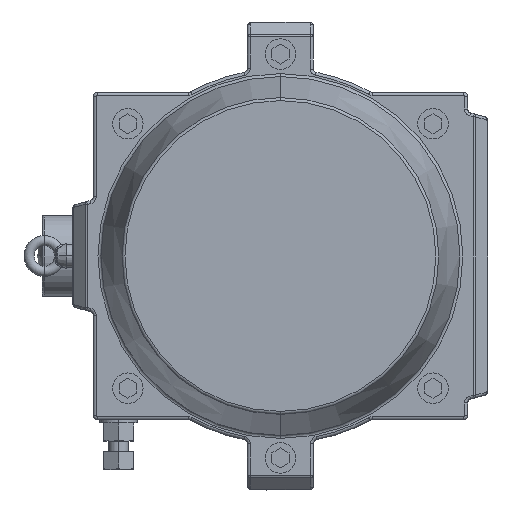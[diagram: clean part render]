
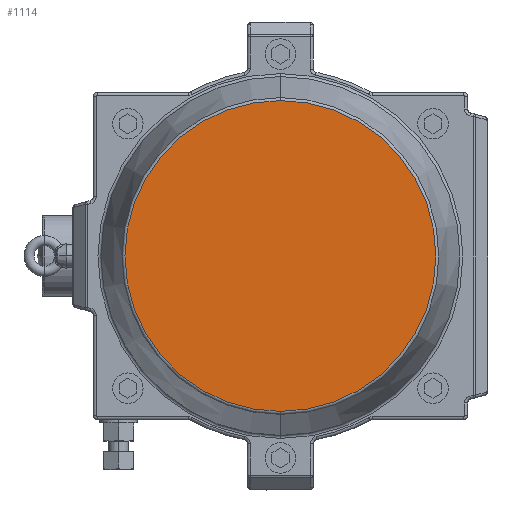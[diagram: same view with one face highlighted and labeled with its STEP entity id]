
A CAD part, left-side view. The second image highlights one B-rep face of the part: STEP entity #1114.
In plain terms, the highlighted planar face has unit normal (-1, 0, 0).
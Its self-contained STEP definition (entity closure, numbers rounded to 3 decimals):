
#560 = DIRECTION ( 'NONE',  ( -1., 0., 0. ) ) ;
#570 = DIRECTION ( 'NONE',  ( -1., 0., 0. ) ) ;
#1114 = ADVANCED_FACE ( 'NONE', ( #4717 ), #16766, .T. ) ;
#4717 = FACE_OUTER_BOUND ( 'NONE', #15840, .T. ) ;
#6151 = ORIENTED_EDGE ( 'NONE', *, *, #16792, .T. ) ;
#7449 = DIRECTION ( 'NONE',  ( 0., 0., 1. ) ) ;
#7856 = DIRECTION ( 'NONE',  ( 0., 0., 1. ) ) ;
#8465 = CIRCLE ( 'NONE', #13365, 152.777 ) ;
#8850 = VERTEX_POINT ( 'NONE', #9431 ) ;
#9431 = CARTESIAN_POINT ( 'NONE',  ( -454.5, 0., 152.777 ) ) ;
#9592 = CARTESIAN_POINT ( 'NONE',  ( -454.5, 0., 0. ) ) ;
#11214 = DIRECTION ( 'NONE',  ( 0., 0., 1. ) ) ;
#12070 = AXIS2_PLACEMENT_3D ( 'NONE', #18757, #570, #7856 ) ;
#12660 = ORIENTED_EDGE ( 'NONE', *, *, #16268, .T. ) ;
#13119 = DIRECTION ( 'NONE',  ( -1., 0., 0. ) ) ;
#13365 = AXIS2_PLACEMENT_3D ( 'NONE', #9592, #560, #7449 ) ;
#15197 = AXIS2_PLACEMENT_3D ( 'NONE', #22084, #13119, #11214 ) ;
#15840 = EDGE_LOOP ( 'NONE', ( #6151, #12660 ) ) ;
#16268 = EDGE_CURVE ( 'NONE', #21068, #8850, #20183, .T. ) ;
#16766 = PLANE ( 'NONE',  #12070 ) ;
#16792 = EDGE_CURVE ( 'NONE', #8850, #21068, #8465, .T. ) ;
#18757 = CARTESIAN_POINT ( 'NONE',  ( -454.5, 0., 0. ) ) ;
#20183 = CIRCLE ( 'NONE', #15197, 152.777 ) ;
#20899 = CARTESIAN_POINT ( 'NONE',  ( -454.5, 0., -152.777 ) ) ;
#21068 = VERTEX_POINT ( 'NONE', #20899 ) ;
#22084 = CARTESIAN_POINT ( 'NONE',  ( -454.5, 0., 0. ) ) ;
